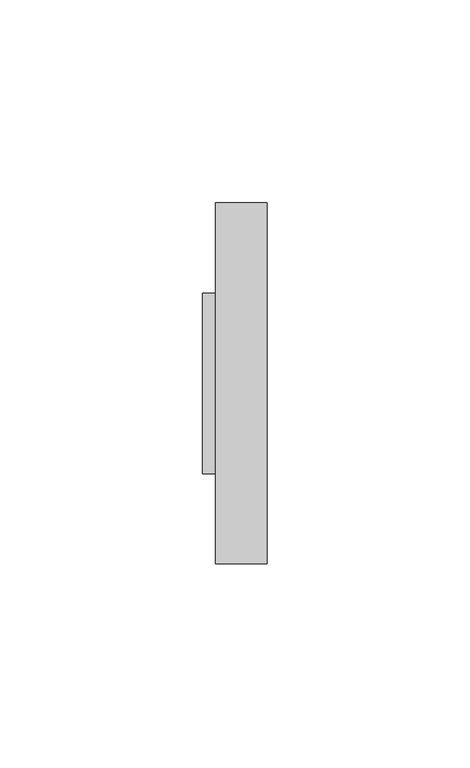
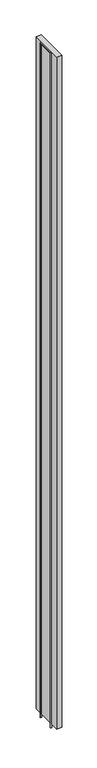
"""IFC4 building model written with IfcOpenShell, lengths in millimetres: furniture geometry."""

from ifc_helpers import new_model, si_unit, frame, origin, place, context, project, spatial, polyline, outline, extrude, source, transform, mapped, element, save


def furniture_e1702f06(model_context):
    return source(origin(), model_context, "Body", "SweptSolid", [
        extrude(outline(polyline([(16.4287944, 1776.4125), (16.4287944, 0.0), (15.6350444, 0.0), (15.6350444, 1775.61875), (-27.2274556, 1775.61875), (-27.2274556, 0.0), (-28.0212056, 0.0), (-28.0212056, 1776.4125), (16.4287944, 1776.4125)])), frame((-8.5456018, 0.0, 0.0), z_axis=(1.0, 0.0, 0.0), x_axis=(0.0, 1.0, 0.0)), (0.0, 0.0, 1.0), 3.175),
        extrude(outline(polyline([(7.3293982, 38.6537944), (7.3293982, -50.2462056), (-5.3706018, -50.2462056), (-5.3706018, 38.6537944), (7.3293982, 38.6537944)])), frame((0.0, 0.0, 9.525), z_axis=(0.0, 0.0, 1.0), x_axis=(1.0, 0.0, 0.0)), (0.0, 0.0, 1.0), 1768.475),
    ])


if __name__ == "__main__":
    model = new_model("IFC4")
    model_context = context("Model", 3, world=origin())
    ifc_project = project(units=[si_unit("LENGTHUNIT", "METRE", prefix="MILLI")], contexts=[model_context])
    site = spatial("IfcSite", under=ifc_project)
    building = spatial("IfcBuilding", under=site)
    placement = place(None, origin())
    furniture_shape = furniture_e1702f06(model_context)
    element("IfcFurniture", 1, ObjectType="HermanMiller_Ethospace_E1250_FinishedEnd : Std Ptd 70\"H", at=placement, inside=building, context=model_context, shape_type="MappedRepresentation", body=[
        mapped(furniture_shape, transform((0.0, 0.0, 0.0), x_axis=(1.0, 0.0, 0.0), y_axis=(0.0, 1.0, 0.0), z_axis=(0.0, 0.0, 1.0))),
    ])
    save(model, "model.ifc")
